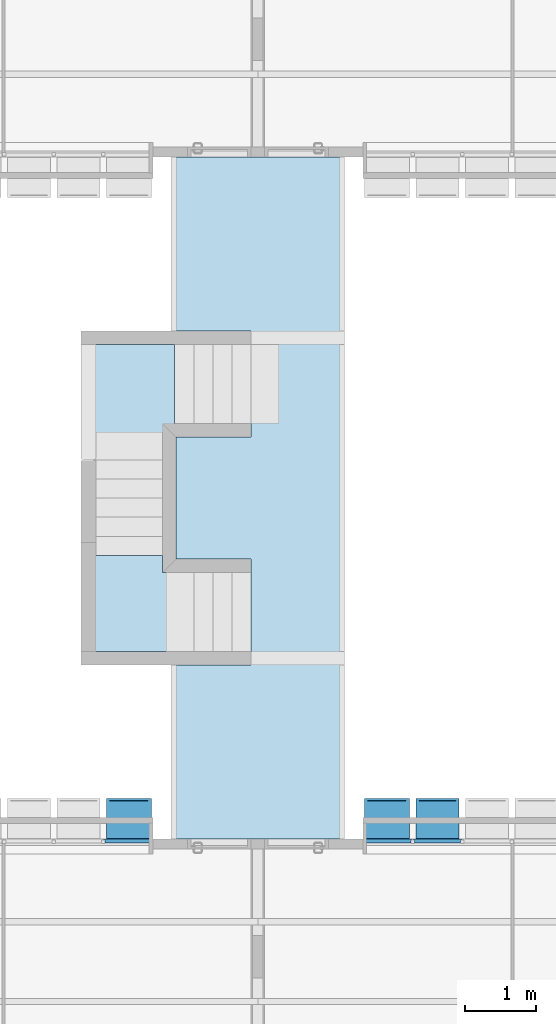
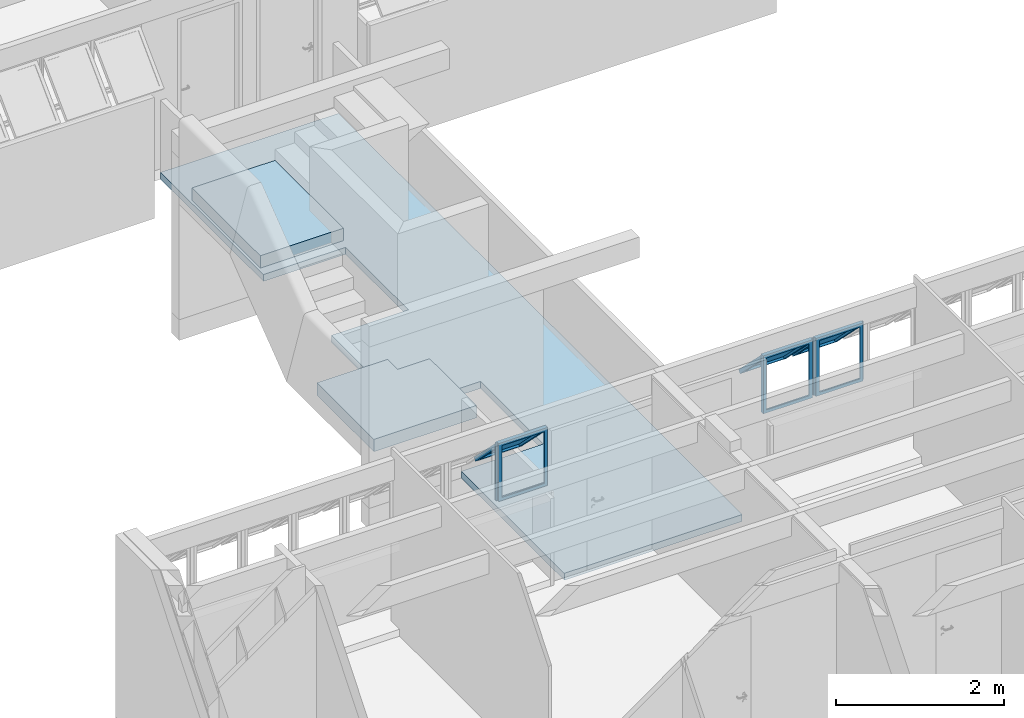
# One storey, part 9 of 40: 3 plates, 3 slabs, 2 elements without a shape of their own.
"""IFC4 building model written with IfcOpenShell, lengths in millimetres."""

from ifc_helpers import new_model, entity, si_unit, converted_unit, derived_unit, direction, frame, origin_with_axes, place, context, subcontext, project, spatial, line, indexed_curve, outline, extrude, polygons, source, transform, mapped, material, layer, layer_set, layer_usage, constituent, constituent_set, type_object, element, aggregate, save


model = new_model("IFC4")

# Units and contexts
model_context = context("Model", 3, precision=0.01, world=origin_with_axes(), true_north=direction((0.0, 1.0)))
body_context = subcontext(model_context, "Body", "Model", "MODEL_VIEW")
ifc_project = project(units=[si_unit("LENGTHUNIT", "METRE", prefix="MILLI"), si_unit("AREAUNIT", "SQUARE_METRE"), si_unit("VOLUMEUNIT", "CUBIC_METRE"), converted_unit("PLANEANGLEUNIT", "DEGREE", entity("IfcPlaneAngleMeasure", 0.0174532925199), si_unit("PLANEANGLEUNIT", "RADIAN"), dimensions=[0, 0, 0, 0, 0, 0, 0]), converted_unit("TIMEUNIT", "Year", entity("IfcTimeMeasure", 31556926.0), si_unit("TIMEUNIT", "SECOND"), dimensions=[0, 0, 1, 0, 0, 0, 0]), si_unit("MASSUNIT", "GRAM", prefix="KILO"), si_unit("THERMODYNAMICTEMPERATUREUNIT", "DEGREE_CELSIUS"), si_unit("LUMINOUSINTENSITYUNIT", "LUMEN"), si_unit("ENERGYUNIT", "JOULE", prefix="MEGA"), derived_unit("THERMALCONDUCTANCEUNIT", [(si_unit("POWERUNIT", "WATT"), 1), (si_unit("LENGTHUNIT", "METRE"), -1), (si_unit("THERMODYNAMICTEMPERATUREUNIT", "KELVIN"), -1)]), derived_unit("SPECIFICHEATCAPACITYUNIT", [(si_unit("ENERGYUNIT", "JOULE"), 1), (si_unit("MASSUNIT", "GRAM", prefix="KILO"), -1), (si_unit("THERMODYNAMICTEMPERATUREUNIT", "KELVIN"), -1)]), derived_unit("MASSDENSITYUNIT", [(si_unit("MASSUNIT", "GRAM", prefix="KILO"), 1), (si_unit("VOLUMEUNIT", "CUBIC_METRE"), -1)])], contexts=[model_context])

# Site, building, storey
site_placement = place(None, origin_with_axes())
site = spatial("IfcSite", under=ifc_project, at=site_placement, Name="Local", CompositionType="ELEMENT")
building_placement = place(site_placement, origin_with_axes())
building = spatial("IfcBuilding", under=site, at=building_placement, Name="Construção", CompositionType="ELEMENT")
storey_placement = place(building_placement, origin_with_axes())
storey = spatial("IfcBuildingStorey", under=building, at=storey_placement, Name="Primeiro Pavimento", CompositionType="ELEMENT", Elevation=0.0)

# Slabs
ifc_material_1 = material(Name="Concreto Armado Moldado in Loco - Estrutural")
ifc_layer_1 = layer(ifc_material_1, 180.0, ventilated="UNKNOWN", Name="Concreto Armado Moldado in Loco - Estrutural")
ifc_layer_set_1 = layer_set([ifc_layer_1], Name="Concreto Armado Moldado in Loco - Estrutural 180")
ifc_layer_usage_1 = layer_usage(ifc_layer_set_1, "AXIS3", "NEGATIVE", 180.0)
slab_type_1 = type_object("IfcSlabType", Name="Concreto Armado Moldado in Loco - Estrutural 180", PredefinedType="FLOOR")
slab_1_placement = place(storey_placement, frame((5065.0, 13620.0, 1710.57075871), z_axis=(0.0, 0.0, 1.0), x_axis=(1.0, 0.0, 0.0)))
element("IfcSlab", 1, at=slab_1_placement, inside=storey, type_object=slab_type_1, material=ifc_layer_usage_1, Name="CIRC1-LAJE-005", PredefinedType="FLOOR", context=body_context, shape_type="SweptSolid", body=[
    extrude(outline(indexed_curve([(0.0, 0.0), (1145.0, 0.0), (1145.0, 1630.0), (0.0, 1630.0)], segments=[line(1, 2, 3, 4, 1)])), frame((0.0, 0.0, -180.0), z_axis=(0.0, 0.0, 1.0), x_axis=(1.0, 0.0, 0.0)), (0.0, 0.0, 1.0), 180.0),
])
ifc_layer_usage_2 = layer_usage(ifc_layer_set_1, "AXIS3", "NEGATIVE", 180.0)
slab_2_placement = place(storey_placement, frame((5065.0, 10910.0, 680.0), z_axis=(0.0, 0.0, 1.0), x_axis=(1.0, 0.0, 0.0)))
element("IfcSlab", 2, at=slab_2_placement, inside=storey, type_object=slab_type_1, material=ifc_layer_usage_2, Name="CIRC1-LAJE-006", PredefinedType="FLOOR", context=body_context, shape_type="SweptSolid", body=[
    extrude(outline(indexed_curve([(0.0, 0.0), (1415.0, 0.0), (1415.0, 1120.0), (975.0, 1120.0), (975.0, 1360.0), (0.0, 1360.0)], segments=[line(1, 2, 3, 4, 5, 6, 1)])), frame((0.0, 0.0, -180.0), z_axis=(0.0, 0.0, 1.0), x_axis=(1.0, 0.0, 0.0)), (0.0, 0.0, 1.0), 180.0),
])

# Window, plate
window_type = type_object("IfcWindowType", Name="Tipo de Parede Cortina", PartitioningType="NOTDEFINED", PredefinedType="NOTDEFINED")
window_1_placement = place(storey_placement, frame((12020.0, 8250.0, 1355.00007107), z_axis=(0.0, 0.0, 1.0), x_axis=(1.0, 0.0, 0.0)))
window_1 = element("IfcWindow", 3, at=window_1_placement, inside=storey, type_object=window_type, Name="APTO2-JANELA-000", PredefinedType="NOTDEFINED")
ifc_material_2 = material(Name="Alumínio")
ifc_constituent_1 = constituent(ifc_material_2, Name="Alumínio")
ifc_material_3 = material(Name="Vidro")
ifc_constituent_2 = constituent(ifc_material_3, Name="Vidro")
ifc_constituent_set_1 = constituent_set(constituents=[ifc_constituent_1, ifc_constituent_2])
plate_type_1 = type_object("IfcPlateType", Name="Painel Principal 690 x 845 x 20", PredefinedType="CURTAIN_PANEL")
shared_shape_1 = source(origin_with_axes(), body_context, "Body", "Tessellation", [
    polygons([(25.0000036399, 0.0, -40.0), (674.999997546, 0.0, -40.0), (674.999997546, 0.0, -35.0), (25.0000036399, 0.0, -35.0), (70.0000036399, 45.0, -40.0), (629.999997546, 45.0, -40.0), (629.999997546, 45.0, -35.0), (70.0000036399, 45.0, -35.0)], [[[1, 2, 3, 4]], [[1, 5, 6, 2]], [[2, 6, 7, 3]], [[4, 3, 7, 8]], [[5, 1, 4, 8]], [[6, 5, 8, 7]]], closed=True),
    polygons([(674.999997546, 0.0, -40.0), (674.999997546, 844.999891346, -40.0), (674.999997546, 844.999891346, -35.0), (674.999997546, 0.0, -35.0), (629.999997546, 45.0, -40.0), (629.999997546, 799.999891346, -40.0), (629.999997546, 799.999891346, -35.0), (629.999997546, 45.0, -35.0)], [[[1, 2, 3, 4]], [[1, 5, 6, 2]], [[2, 6, 7, 3]], [[4, 3, 7, 8]], [[5, 1, 4, 8]], [[6, 5, 8, 7]]], closed=True),
    polygons([(25.0000036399, 844.999891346, -40.0), (70.0000036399, 799.999891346, -40.0), (70.0000036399, 799.999891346, -35.0), (25.0000036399, 844.999891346, -35.0), (674.999997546, 844.999891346, -40.0), (629.999997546, 799.999891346, -40.0), (629.999997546, 799.999891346, -35.0), (674.999997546, 844.999891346, -35.0)], [[[1, 2, 3, 4]], [[1, 5, 6, 2]], [[2, 6, 7, 3]], [[4, 3, 7, 8]], [[5, 1, 4, 8]], [[6, 5, 8, 7]]], closed=True),
    polygons([(25.0000036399, 0.0, -40.0), (70.0000036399, 45.0, -40.0), (70.0000036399, 45.0, -35.0), (25.0000036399, 0.0, -35.0), (25.0000036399, 844.999891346, -40.0), (70.0000036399, 799.999891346, -40.0), (70.0000036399, 799.999891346, -35.0), (25.0000036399, 844.999891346, -35.0)], [[[1, 2, 3, 4]], [[1, 5, 6, 2]], [[2, 6, 7, 3]], [[4, 3, 7, 8]], [[5, 1, 4, 8]], [[6, 5, 8, 7]]], closed=True),
    polygons([(25.0000036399, 0.0, -35.0), (674.999997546, 0.0, -35.0), (674.999997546, 0.0, 15.0), (25.0000036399, 0.0, 15.0), (45.0000036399, 20.0, -35.0), (654.999997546, 20.0, -35.0), (654.999997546, 20.0, 15.0), (45.0000036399, 20.0, 15.0)], [[[1, 2, 3, 4]], [[1, 5, 6, 2]], [[2, 6, 7, 3]], [[4, 3, 7, 8]], [[5, 1, 4, 8]], [[6, 5, 8, 7]]], closed=True),
    polygons([(674.999997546, 0.0, -35.0), (674.999997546, 844.999891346, -35.0), (674.999997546, 844.999891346, 15.0), (674.999997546, 0.0, 15.0), (654.999997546, 20.0, -35.0), (654.999997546, 824.999891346, -35.0), (654.999997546, 824.999891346, 15.0), (654.999997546, 20.0, 15.0)], [[[1, 2, 3, 4]], [[1, 5, 6, 2]], [[2, 6, 7, 3]], [[4, 3, 7, 8]], [[5, 1, 4, 8]], [[6, 5, 8, 7]]], closed=True),
    polygons([(25.0000036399, 844.999891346, -35.0), (45.0000036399, 824.999891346, -35.0), (45.0000036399, 824.999891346, 15.0), (25.0000036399, 844.999891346, 15.0), (674.999997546, 844.999891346, -35.0), (654.999997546, 824.999891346, -35.0), (654.999997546, 824.999891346, 15.0), (674.999997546, 844.999891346, 15.0)], [[[1, 2, 3, 4]], [[1, 5, 6, 2]], [[2, 6, 7, 3]], [[4, 3, 7, 8]], [[5, 1, 4, 8]], [[6, 5, 8, 7]]], closed=True),
    polygons([(25.0000036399, 0.0, -35.0), (45.0000036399, 20.0, -35.0), (45.0000036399, 20.0, 15.0), (25.0000036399, 0.0, 15.0), (25.0000036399, 844.999891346, -35.0), (45.0000036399, 824.999891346, -35.0), (45.0000036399, 824.999891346, 15.0), (25.0000036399, 844.999891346, 15.0)], [[[1, 2, 3, 4]], [[1, 5, 6, 2]], [[2, 6, 7, 3]], [[4, 3, 7, 8]], [[5, 1, 4, 8]], [[6, 5, 8, 7]]], closed=True),
    polygons([(694.999995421, 0.0, -10.0), (694.999995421, 844.999891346, -10.0), (694.999995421, 844.999891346, 10.0), (694.999995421, 0.0, 10.0), (674.999997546, 0.0, -10.0), (674.999997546, 844.999891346, -10.0), (674.999997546, 844.999891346, 10.0), (674.999997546, 0.0, 10.0)], [[[1, 2, 3, 4]], [[1, 5, 6, 2]], [[2, 6, 7, 3]], [[4, 3, 7, 8]], [[5, 1, 4, 8]], [[6, 5, 8, 7]]], closed=True),
    polygons([(5.00000576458, 844.999891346, -10.0), (5.00000576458, 0.0, -10.0), (5.00000576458, 0.0, 10.0), (5.00000576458, 844.999891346, 10.0), (25.0000036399, 844.999891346, -10.0), (25.0000036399, 0.0, -10.0), (25.0000036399, 0.0, 10.0), (25.0000036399, 844.999891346, 10.0)], [[[1, 2, 3, 4]], [[1, 5, 6, 2]], [[2, 6, 7, 3]], [[4, 3, 7, 8]], [[5, 1, 4, 8]], [[6, 5, 8, 7]]], closed=True),
    polygons([(90.0000036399, 252.243475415, 517.045737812), (90.0000036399, 757.824747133, 11.4644660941), (90.0000036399, 796.715620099, 50.3553390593), (90.0000036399, 291.13434838, 555.936610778), (45.0000036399, 220.423670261, 548.865542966), (45.0000036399, 789.644552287, -20.3553390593), (45.0000036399, 828.535425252, 18.5355339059), (45.0000036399, 259.314543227, 587.756415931)], [[[1, 2, 3, 4]], [[1, 5, 6, 2]], [[2, 6, 7, 3]], [[4, 3, 7, 8]], [[5, 1, 4, 8]], [[6, 5, 8, 7]]], closed=True),
    polygons([(654.999997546, 220.423670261, 548.865542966), (654.999997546, 789.644552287, -20.3553390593), (654.999997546, 828.535425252, 18.5355339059), (654.999997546, 259.314543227, 587.756415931), (609.999997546, 252.243475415, 517.045737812), (609.999997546, 757.824747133, 11.4644660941), (609.999997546, 796.715620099, 50.3553390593), (609.999997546, 291.13434838, 555.936610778)], [[[1, 2, 3, 4]], [[1, 5, 6, 2]], [[2, 6, 7, 3]], [[4, 3, 7, 8]], [[5, 1, 4, 8]], [[6, 5, 8, 7]]], closed=True),
    polygons([(654.999997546, 220.423670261, 548.865542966), (609.999997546, 252.243475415, 517.045737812), (609.999997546, 291.13434838, 555.936610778), (654.999997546, 259.314543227, 587.756415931), (45.0000036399, 220.423670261, 548.865542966), (90.0000036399, 252.243475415, 517.045737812), (90.0000036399, 291.13434838, 555.936610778), (45.0000036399, 259.314543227, 587.756415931)], [[[1, 2, 3, 4]], [[1, 5, 6, 2]], [[2, 6, 7, 3]], [[4, 3, 7, 8]], [[5, 1, 4, 8]], [[6, 5, 8, 7]]], closed=True),
    polygons([(45.0000036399, 789.644552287, -20.3553390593), (90.0000036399, 757.824747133, 11.4644660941), (90.0000036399, 796.715620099, 50.3553390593), (45.0000036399, 828.535425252, 18.5355339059), (654.999997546, 789.644552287, -20.3553390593), (609.999997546, 757.824747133, 11.4644660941), (609.999997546, 796.715620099, 50.3553390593), (654.999997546, 828.535425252, 18.5355339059)], [[[1, 2, 3, 4]], [[1, 5, 6, 2]], [[2, 6, 7, 3]], [[4, 3, 7, 8]], [[5, 1, 4, 8]], [[6, 5, 8, 7]]], closed=True),
    polygons([(90.0000036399, 272.749572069, 537.551834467), (609.999997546, 272.749572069, 537.551834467), (609.999997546, 284.063280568, 548.865542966), (90.0000036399, 284.063280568, 548.865542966), (90.0000036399, 778.330843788, 31.9705627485), (609.999997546, 778.330843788, 31.9705627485), (609.999997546, 789.644552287, 43.2842712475), (90.0000036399, 789.644552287, 43.2842712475)], [[[1, 2, 3, 4]], [[1, 5, 6, 2]], [[2, 6, 7, 3]], [[4, 3, 7, 8]], [[5, 1, 4, 8]], [[6, 5, 8, 7]]], closed=True),
])
plate_1_placement = place(window_1_placement, frame((-2100.0, 0.0, 422.499964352), z_axis=(0.0, 0.0, 1.0), x_axis=(1.0, 0.0, 0.0)))
plate_1 = element("IfcPlate", 4, at=plate_1_placement, type_object=plate_type_1, material=ifc_constituent_set_1, Name="APTO2-Painel-Prin-029", PredefinedType="CURTAIN_PANEL", context=body_context, shape_type="MappedRepresentation", body=[
    mapped(shared_shape_1, transform((350.0, 0.0, -422.499964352), x_axis=(-1.0, 0.0, 0.0), y_axis=(0.0, 0.0, 1.0), z_axis=(0.0, 1.0, 0.0))),
])

# Slab
ifc_layer_2 = layer(ifc_material_1, 100.0, ventilated="UNKNOWN", Name="Concreto Armado Moldado in Loco - Estrutural")
ifc_layer_set_2 = layer_set([ifc_layer_2], Name="Concreto Armado Moldado in Loco - Estrutural 100")
ifc_layer_usage_3 = layer_usage(ifc_layer_set_2, "AXIS3", "NEGATIVE", 100.0)
slab_type_2 = type_object("IfcSlabType", Name="Concreto Armado Moldado in Loco - Estrutural 100", PredefinedType="FLOOR")
slab_3_placement = place(storey_placement, frame((6229.99993205, 13940.0000635, -150.0), z_axis=(0.0, 0.0, 1.0), x_axis=(1.0, 0.0, 0.0)))
element("IfcSlab", 5, at=slab_3_placement, inside=storey, type_object=slab_type_2, material=ifc_layer_usage_3, Name="CIRC1-LAJE-007", PredefinedType="FLOOR", context=body_context, shape_type="SweptSolid", body=[
    extrude(outline(indexed_curve([(0.0, 0.0), (0.0, -1720.00012696), (1060.0001283, -1720.00012696), (1060.0001283, -3220.00011086), (-69.9999320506, -3220.00011086), (-69.9999320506, -5675.00006348), (2380.00006795, -5675.00006348), (2380.00006795, 3954.99993652), (-69.9999320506, 3954.99993652), (-69.9999320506, 1499.99998391), (1060.0001283, 1499.99998391), (1060.0001283, 1309.99988645), (1060.0001283, 0.0)], segments=[line(1, 2, 3, 4, 5, 6, 7, 8, 9, 10, 11, 12, 13, 1)])), origin_with_axes(), (0.0, 0.0, 1.0), 100.0),
])

# Window, plate
window_2_placement = place(storey_placement, frame((294.99998404, 8250.0, 1355.00007107), z_axis=(0.0, 0.0, 1.0), x_axis=(1.0, 0.0, 0.0)))
window_2 = element("IfcWindow", 6, at=window_2_placement, inside=storey, type_object=window_type, Name="APTO1-JANELA-000", PredefinedType="NOTDEFINED")
ifc_constituent_3 = constituent(ifc_material_2, Name="Alumínio")
ifc_constituent_4 = constituent(ifc_material_3, Name="Vidro")
ifc_constituent_set_2 = constituent_set(constituents=[ifc_constituent_3, ifc_constituent_4])
plate_type_2 = type_object("IfcPlateType", Name="Painel Principal 695 x 845 x 20", PredefinedType="CURTAIN_PANEL")
shared_shape_2 = source(origin_with_axes(), body_context, "Body", "Tessellation", [
    polygons([(-25.0000062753, 0.0, -40.0), (-25.0000062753, 0.0, -35.0), (-699.999999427, 0.0, -35.0), (-699.999999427, 0.0, -40.0), (-70.0000062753, 45.0, -40.0), (-70.0000062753, 45.0, -35.0), (-654.999999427, 45.0, -35.0), (-654.999999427, 45.0, -40.0)], [[[1, 2, 3, 4]], [[5, 6, 2, 1]], [[2, 6, 7, 3]], [[4, 3, 7, 8]], [[1, 4, 8, 5]], [[8, 7, 6, 5]]], closed=True),
    polygons([(-699.999999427, 0.0, -40.0), (-699.999999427, 0.0, -35.0), (-699.999999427, 844.999980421, -35.0), (-699.999999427, 844.999980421, -40.0), (-654.999999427, 45.0, -40.0), (-654.999999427, 45.0, -35.0), (-654.999999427, 799.999980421, -35.0), (-654.999999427, 799.999980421, -40.0)], [[[1, 2, 3, 4]], [[5, 6, 2, 1]], [[2, 6, 7, 3]], [[4, 3, 7, 8]], [[1, 4, 8, 5]], [[8, 7, 6, 5]]], closed=True),
    polygons([(-25.0000062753, 844.999980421, -40.0), (-25.0000062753, 844.999980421, -35.0), (-70.0000062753, 799.999980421, -35.0), (-70.0000062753, 799.999980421, -40.0), (-699.999999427, 844.999980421, -40.0), (-699.999999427, 844.999980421, -35.0), (-654.999999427, 799.999980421, -35.0), (-654.999999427, 799.999980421, -40.0)], [[[1, 2, 3, 4]], [[5, 6, 2, 1]], [[2, 6, 7, 3]], [[4, 3, 7, 8]], [[1, 4, 8, 5]], [[8, 7, 6, 5]]], closed=True),
    polygons([(-25.0000062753, 0.0, -40.0), (-25.0000062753, 0.0, -35.0), (-70.0000062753, 45.0, -35.0), (-70.0000062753, 45.0, -40.0), (-25.0000062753, 844.999980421, -40.0), (-25.0000062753, 844.999980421, -35.0), (-70.0000062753, 799.999980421, -35.0), (-70.0000062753, 799.999980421, -40.0)], [[[1, 2, 3, 4]], [[5, 6, 2, 1]], [[2, 6, 7, 3]], [[4, 3, 7, 8]], [[1, 4, 8, 5]], [[8, 7, 6, 5]]], closed=True),
    polygons([(-25.0000062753, 0.0, -35.0), (-25.0000062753, 0.0, 15.0), (-699.999999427, 0.0, 15.0), (-699.999999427, 0.0, -35.0), (-45.0000062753, 20.0, -35.0), (-45.0000062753, 20.0, 15.0), (-679.999999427, 20.0, 15.0), (-679.999999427, 20.0, -35.0)], [[[1, 2, 3, 4]], [[5, 6, 2, 1]], [[2, 6, 7, 3]], [[4, 3, 7, 8]], [[1, 4, 8, 5]], [[8, 7, 6, 5]]], closed=True),
    polygons([(-699.999999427, 0.0, -35.0), (-699.999999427, 0.0, 15.0), (-699.999999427, 844.999980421, 15.0), (-699.999999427, 844.999980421, -35.0), (-679.999999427, 20.0, -35.0), (-679.999999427, 20.0, 15.0), (-679.999999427, 824.999980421, 15.0), (-679.999999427, 824.999980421, -35.0)], [[[1, 2, 3, 4]], [[5, 6, 2, 1]], [[2, 6, 7, 3]], [[4, 3, 7, 8]], [[1, 4, 8, 5]], [[8, 7, 6, 5]]], closed=True),
    polygons([(-25.0000062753, 844.999980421, -35.0), (-25.0000062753, 844.999980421, 15.0), (-45.0000062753, 824.999980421, 15.0), (-45.0000062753, 824.999980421, -35.0), (-699.999999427, 844.999980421, -35.0), (-699.999999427, 844.999980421, 15.0), (-679.999999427, 824.999980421, 15.0), (-679.999999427, 824.999980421, -35.0)], [[[1, 2, 3, 4]], [[5, 6, 2, 1]], [[2, 6, 7, 3]], [[4, 3, 7, 8]], [[1, 4, 8, 5]], [[8, 7, 6, 5]]], closed=True),
    polygons([(-25.0000062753, 0.0, -35.0), (-25.0000062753, 0.0, 15.0), (-45.0000062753, 20.0, 15.0), (-45.0000062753, 20.0, -35.0), (-25.0000062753, 844.999980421, -35.0), (-25.0000062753, 844.999980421, 15.0), (-45.0000062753, 824.999980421, 15.0), (-45.0000062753, 824.999980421, -35.0)], [[[1, 2, 3, 4]], [[5, 6, 2, 1]], [[2, 6, 7, 3]], [[4, 3, 7, 8]], [[1, 4, 8, 5]], [[8, 7, 6, 5]]], closed=True),
    polygons([(-5.00000629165, 844.999980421, -10.0), (-5.00000629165, 844.999980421, 10.0), (-5.00000629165, 0.0, 10.0), (-5.00000629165, 0.0, -10.0), (-25.0000062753, 844.999980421, -10.0), (-25.0000062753, 844.999980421, 10.0), (-25.0000062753, 0.0, 10.0), (-25.0000062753, 0.0, -10.0)], [[[1, 2, 3, 4]], [[5, 6, 2, 1]], [[2, 6, 7, 3]], [[4, 3, 7, 8]], [[1, 4, 8, 5]], [[8, 7, 6, 5]]], closed=True),
    polygons([(-90.0000062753, 252.243501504, 517.045800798), (-90.0000062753, 291.134374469, 555.936673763), (-90.0000062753, 796.715709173, 50.3553390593), (-90.0000062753, 757.824836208, 11.4644660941), (-45.0000062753, 220.423696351, 548.865605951), (-45.0000062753, 259.314569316, 587.756478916), (-45.0000062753, 828.535514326, 18.5355339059), (-45.0000062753, 789.644641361, -20.3553390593)], [[[1, 2, 3, 4]], [[5, 6, 2, 1]], [[2, 6, 7, 3]], [[4, 3, 7, 8]], [[1, 4, 8, 5]], [[8, 7, 6, 5]]], closed=True),
    polygons([(-679.999999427, 220.423696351, 548.865605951), (-679.999999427, 259.314569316, 587.756478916), (-679.999999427, 828.535514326, 18.5355339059), (-679.999999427, 789.644641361, -20.3553390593), (-634.999999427, 252.243501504, 517.045800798), (-634.999999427, 291.134374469, 555.936673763), (-634.999999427, 796.715709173, 50.3553390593), (-634.999999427, 757.824836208, 11.4644660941)], [[[1, 2, 3, 4]], [[5, 6, 2, 1]], [[2, 6, 7, 3]], [[4, 3, 7, 8]], [[1, 4, 8, 5]], [[8, 7, 6, 5]]], closed=True),
    polygons([(-679.999999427, 220.423696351, 548.865605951), (-679.999999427, 259.314569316, 587.756478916), (-634.999999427, 291.134374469, 555.936673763), (-634.999999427, 252.243501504, 517.045800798), (-45.0000062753, 220.423696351, 548.865605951), (-45.0000062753, 259.314569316, 587.756478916), (-90.0000062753, 291.134374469, 555.936673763), (-90.0000062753, 252.243501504, 517.045800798)], [[[1, 2, 3, 4]], [[5, 6, 2, 1]], [[2, 6, 7, 3]], [[4, 3, 7, 8]], [[1, 4, 8, 5]], [[8, 7, 6, 5]]], closed=True),
    polygons([(-45.0000062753, 789.644641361, -20.3553390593), (-45.0000062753, 828.535514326, 18.5355339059), (-90.0000062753, 796.715709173, 50.3553390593), (-90.0000062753, 757.824836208, 11.4644660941), (-679.999999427, 789.644641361, -20.3553390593), (-679.999999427, 828.535514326, 18.5355339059), (-634.999999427, 796.715709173, 50.3553390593), (-634.999999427, 757.824836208, 11.4644660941)], [[[1, 2, 3, 4]], [[5, 6, 2, 1]], [[2, 6, 7, 3]], [[4, 3, 7, 8]], [[1, 4, 8, 5]], [[8, 7, 6, 5]]], closed=True),
    polygons([(-90.0000062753, 272.749598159, 537.551897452), (-90.0000062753, 284.063306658, 548.865605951), (-634.999999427, 284.063306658, 548.865605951), (-634.999999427, 272.749598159, 537.551897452), (-90.0000062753, 778.330932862, 31.9705627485), (-90.0000062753, 789.644641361, 43.2842712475), (-634.999999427, 789.644641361, 43.2842712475), (-634.999999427, 778.330932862, 31.9705627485)], [[[1, 2, 3, 4]], [[5, 6, 2, 1]], [[2, 6, 7, 3]], [[4, 3, 7, 8]], [[1, 4, 8, 5]], [[8, 7, 6, 5]]], closed=True),
])
plate_2_placement = place(window_2_placement, frame((5255.00001596, 0.0, 422.499986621), z_axis=(0.0, 0.0, 1.0), x_axis=(-1.0, 0.0, 0.0)))
plate_2 = element("IfcPlate", 7, at=plate_2_placement, type_object=plate_type_2, material=ifc_constituent_set_2, Name="APTO1-Painel-Prin-020", PredefinedType="CURTAIN_PANEL", context=body_context, shape_type="MappedRepresentation", body=[
    mapped(shared_shape_2, transform((350.0, 0.0, -422.499986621), x_axis=(1.0, 0.0, 0.0), y_axis=(0.0, 0.0, 1.0), z_axis=(0.0, -1.0, 0.0))),
])
aggregate(window_2, [plate_2])

# Plate
ifc_constituent_5 = constituent(ifc_material_2, Name="Alumínio")
ifc_constituent_6 = constituent(ifc_material_3, Name="Vidro")
ifc_constituent_set_3 = constituent_set(constituents=[ifc_constituent_5, ifc_constituent_6])
shared_shape_3 = source(origin_with_axes(), body_context, "Body", "Tessellation", [
    polygons([(25.0000062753, 0.0, -40.0), (699.999999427, 0.0, -40.0), (699.999999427, 0.0, -35.0), (25.0000062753, 0.0, -35.0), (70.0000062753, 45.0, -40.0), (654.999999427, 45.0, -40.0), (654.999999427, 45.0, -35.0), (70.0000062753, 45.0, -35.0)], [[[1, 2, 3, 4]], [[1, 5, 6, 2]], [[2, 6, 7, 3]], [[4, 3, 7, 8]], [[5, 1, 4, 8]], [[6, 5, 8, 7]]], closed=True),
    polygons([(699.999999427, 0.0, -40.0), (699.999999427, 844.999980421, -40.0), (699.999999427, 844.999980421, -35.0), (699.999999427, 0.0, -35.0), (654.999999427, 45.0, -40.0), (654.999999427, 799.999980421, -40.0), (654.999999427, 799.999980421, -35.0), (654.999999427, 45.0, -35.0)], [[[1, 2, 3, 4]], [[1, 5, 6, 2]], [[2, 6, 7, 3]], [[4, 3, 7, 8]], [[5, 1, 4, 8]], [[6, 5, 8, 7]]], closed=True),
    polygons([(25.0000062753, 844.999980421, -40.0), (70.0000062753, 799.999980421, -40.0), (70.0000062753, 799.999980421, -35.0), (25.0000062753, 844.999980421, -35.0), (699.999999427, 844.999980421, -40.0), (654.999999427, 799.999980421, -40.0), (654.999999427, 799.999980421, -35.0), (699.999999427, 844.999980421, -35.0)], [[[1, 2, 3, 4]], [[1, 5, 6, 2]], [[2, 6, 7, 3]], [[4, 3, 7, 8]], [[5, 1, 4, 8]], [[6, 5, 8, 7]]], closed=True),
    polygons([(25.0000062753, 0.0, -40.0), (70.0000062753, 45.0, -40.0), (70.0000062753, 45.0, -35.0), (25.0000062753, 0.0, -35.0), (25.0000062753, 844.999980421, -40.0), (70.0000062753, 799.999980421, -40.0), (70.0000062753, 799.999980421, -35.0), (25.0000062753, 844.999980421, -35.0)], [[[1, 2, 3, 4]], [[1, 5, 6, 2]], [[2, 6, 7, 3]], [[4, 3, 7, 8]], [[5, 1, 4, 8]], [[6, 5, 8, 7]]], closed=True),
    polygons([(25.0000062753, 0.0, -35.0), (699.999999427, 0.0, -35.0), (699.999999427, 0.0, 15.0), (25.0000062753, 0.0, 15.0), (45.0000062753, 20.0, -35.0), (679.999999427, 20.0, -35.0), (679.999999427, 20.0, 15.0), (45.0000062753, 20.0, 15.0)], [[[1, 2, 3, 4]], [[1, 5, 6, 2]], [[2, 6, 7, 3]], [[4, 3, 7, 8]], [[5, 1, 4, 8]], [[6, 5, 8, 7]]], closed=True),
    polygons([(699.999999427, 0.0, -35.0), (699.999999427, 844.999980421, -35.0), (699.999999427, 844.999980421, 15.0), (699.999999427, 0.0, 15.0), (679.999999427, 20.0, -35.0), (679.999999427, 824.999980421, -35.0), (679.999999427, 824.999980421, 15.0), (679.999999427, 20.0, 15.0)], [[[1, 2, 3, 4]], [[1, 5, 6, 2]], [[2, 6, 7, 3]], [[4, 3, 7, 8]], [[5, 1, 4, 8]], [[6, 5, 8, 7]]], closed=True),
    polygons([(25.0000062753, 844.999980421, -35.0), (45.0000062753, 824.999980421, -35.0), (45.0000062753, 824.999980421, 15.0), (25.0000062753, 844.999980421, 15.0), (699.999999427, 844.999980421, -35.0), (679.999999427, 824.999980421, -35.0), (679.999999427, 824.999980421, 15.0), (699.999999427, 844.999980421, 15.0)], [[[1, 2, 3, 4]], [[1, 5, 6, 2]], [[2, 6, 7, 3]], [[4, 3, 7, 8]], [[5, 1, 4, 8]], [[6, 5, 8, 7]]], closed=True),
    polygons([(25.0000062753, 0.0, -35.0), (45.0000062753, 20.0, -35.0), (45.0000062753, 20.0, 15.0), (25.0000062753, 0.0, 15.0), (25.0000062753, 844.999980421, -35.0), (45.0000062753, 824.999980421, -35.0), (45.0000062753, 824.999980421, 15.0), (25.0000062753, 844.999980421, 15.0)], [[[1, 2, 3, 4]], [[1, 5, 6, 2]], [[2, 6, 7, 3]], [[4, 3, 7, 8]], [[5, 1, 4, 8]], [[6, 5, 8, 7]]], closed=True),
    polygons([(5.00000629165, 844.999980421, -10.0), (5.00000629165, 0.0, -10.0), (5.00000629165, 0.0, 10.0), (5.00000629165, 844.999980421, 10.0), (25.0000062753, 844.999980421, -10.0), (25.0000062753, 0.0, -10.0), (25.0000062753, 0.0, 10.0), (25.0000062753, 844.999980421, 10.0)], [[[1, 2, 3, 4]], [[1, 5, 6, 2]], [[2, 6, 7, 3]], [[4, 3, 7, 8]], [[5, 1, 4, 8]], [[6, 5, 8, 7]]], closed=True),
    polygons([(90.0000062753, 252.243501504, 517.045800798), (90.0000062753, 757.824836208, 11.4644660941), (90.0000062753, 796.715709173, 50.3553390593), (90.0000062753, 291.134374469, 555.936673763), (45.0000062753, 220.423696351, 548.865605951), (45.0000062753, 789.644641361, -20.3553390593), (45.0000062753, 828.535514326, 18.5355339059), (45.0000062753, 259.314569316, 587.756478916)], [[[1, 2, 3, 4]], [[1, 5, 6, 2]], [[2, 6, 7, 3]], [[4, 3, 7, 8]], [[5, 1, 4, 8]], [[6, 5, 8, 7]]], closed=True),
    polygons([(679.999999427, 220.423696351, 548.865605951), (679.999999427, 789.644641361, -20.3553390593), (679.999999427, 828.535514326, 18.5355339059), (679.999999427, 259.314569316, 587.756478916), (634.999999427, 252.243501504, 517.045800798), (634.999999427, 757.824836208, 11.4644660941), (634.999999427, 796.715709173, 50.3553390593), (634.999999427, 291.134374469, 555.936673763)], [[[1, 2, 3, 4]], [[1, 5, 6, 2]], [[2, 6, 7, 3]], [[4, 3, 7, 8]], [[5, 1, 4, 8]], [[6, 5, 8, 7]]], closed=True),
    polygons([(679.999999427, 220.423696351, 548.865605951), (634.999999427, 252.243501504, 517.045800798), (634.999999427, 291.134374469, 555.936673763), (679.999999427, 259.314569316, 587.756478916), (45.0000062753, 220.423696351, 548.865605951), (90.0000062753, 252.243501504, 517.045800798), (90.0000062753, 291.134374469, 555.936673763), (45.0000062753, 259.314569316, 587.756478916)], [[[1, 2, 3, 4]], [[1, 5, 6, 2]], [[2, 6, 7, 3]], [[4, 3, 7, 8]], [[5, 1, 4, 8]], [[6, 5, 8, 7]]], closed=True),
    polygons([(45.0000062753, 789.644641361, -20.3553390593), (90.0000062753, 757.824836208, 11.4644660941), (90.0000062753, 796.715709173, 50.3553390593), (45.0000062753, 828.535514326, 18.5355339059), (679.999999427, 789.644641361, -20.3553390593), (634.999999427, 757.824836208, 11.4644660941), (634.999999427, 796.715709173, 50.3553390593), (679.999999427, 828.535514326, 18.5355339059)], [[[1, 2, 3, 4]], [[1, 5, 6, 2]], [[2, 6, 7, 3]], [[4, 3, 7, 8]], [[5, 1, 4, 8]], [[6, 5, 8, 7]]], closed=True),
    polygons([(90.0000062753, 272.749598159, 537.551897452), (634.999999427, 272.749598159, 537.551897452), (634.999999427, 284.063306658, 548.865605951), (90.0000062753, 284.063306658, 548.865605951), (90.0000062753, 778.330932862, 31.9705627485), (634.999999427, 778.330932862, 31.9705627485), (634.999999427, 789.644641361, 43.2842712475), (90.0000062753, 789.644641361, 43.2842712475)], [[[1, 2, 3, 4]], [[1, 5, 6, 2]], [[2, 6, 7, 3]], [[4, 3, 7, 8]], [[5, 1, 4, 8]], [[6, 5, 8, 7]]], closed=True),
])
plate_3_placement = place(window_1_placement, frame((-2800.0, 0.0, 422.499986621), z_axis=(0.0, 0.0, 1.0), x_axis=(1.0, 0.0, 0.0)))
plate_3 = element("IfcPlate", 8, at=plate_3_placement, type_object=plate_type_2, material=ifc_constituent_set_3, Name="APTO2-Painel-Prin-020", PredefinedType="CURTAIN_PANEL", context=body_context, shape_type="MappedRepresentation", body=[
    mapped(shared_shape_3, transform((350.0, 0.0, -422.499986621), x_axis=(-1.0, 0.0, 0.0), y_axis=(0.0, 0.0, 1.0), z_axis=(0.0, 1.0, 0.0))),
])

aggregate(window_1, [plate_1, plate_3])

save(model, "model.ifc")
